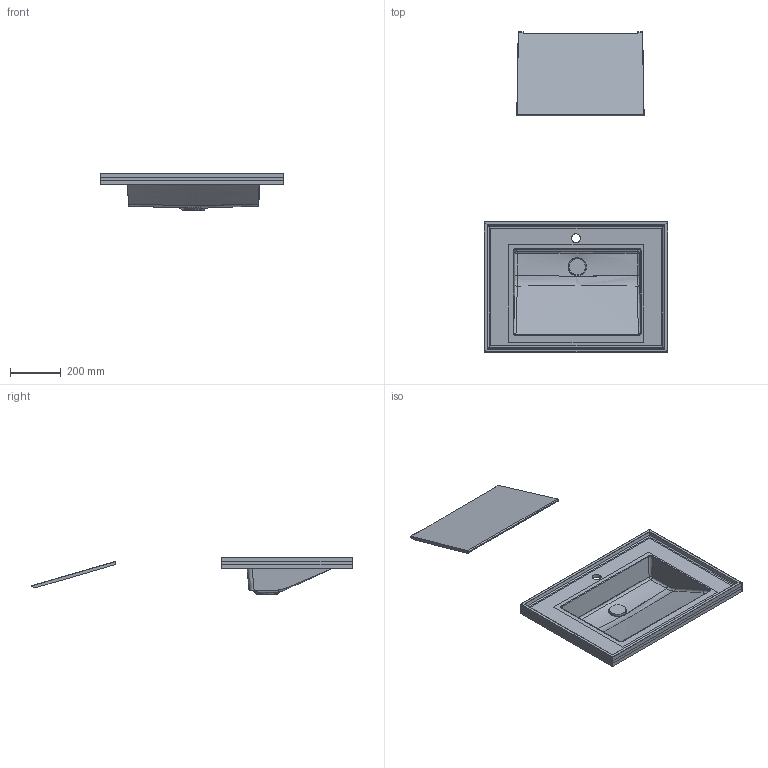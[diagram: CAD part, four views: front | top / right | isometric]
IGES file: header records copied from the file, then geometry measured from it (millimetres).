
Start section: Data from Parasolid IGES Translator 19.0.9, Copyright(c) 2006 Siemens PL M Software. All Rights Reserved.
Global section: file name: noorth-top-H 4,5 D 51,3 W 72_2943.igs; native system: By Siemens PLM Incorporated; preprocessor: XPlus GENERIC/IGES 19.0.9; author: Noname; organization: Noname; date: 20200603.101544; units: metre
Bounding box: 720 x 1257.41 x 149 mm (x, y, z)
Volume: 5866905.1 mm3; surface area: 1704910.3 mm2
Topology: 7 solids, 7 shells, 175 faces, 711 edges, 613 vertices
Faces by surface type: plane 68, bspline 48, cylinder 32, extrusion 19, torus 4, revolution 4
Full cylindrical faces by diameter (mm): 34.9 x1, 64 x1
